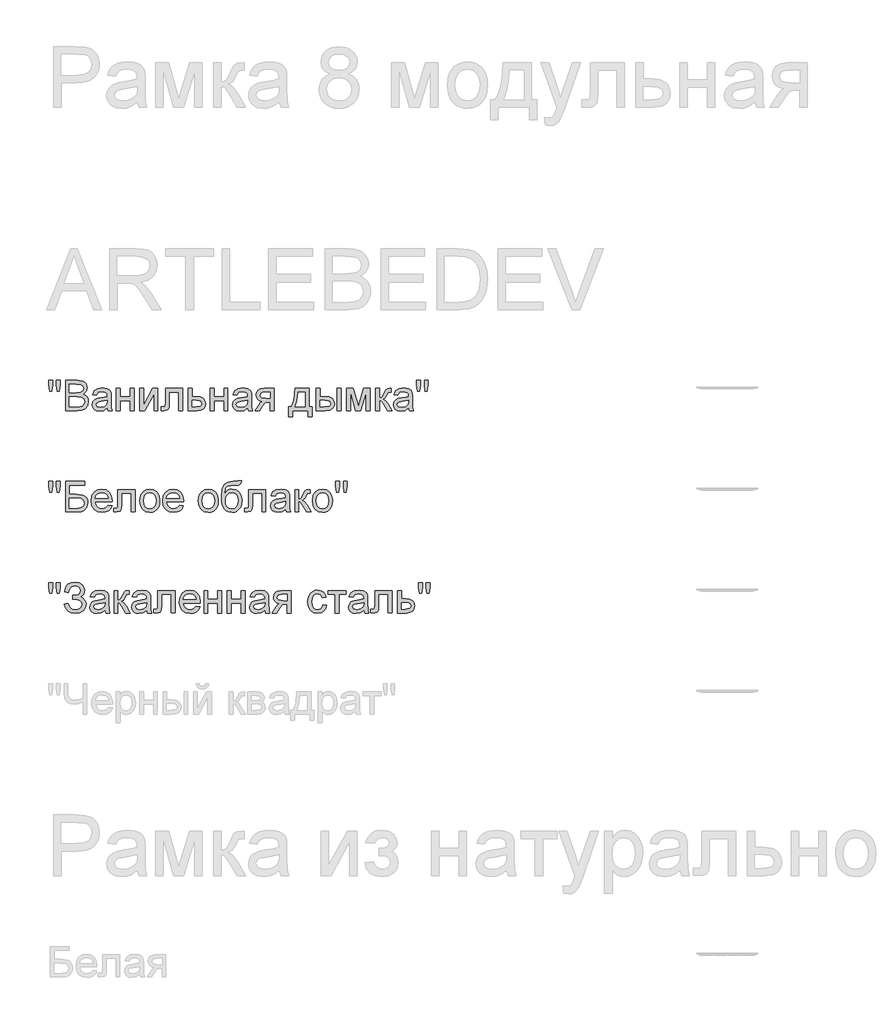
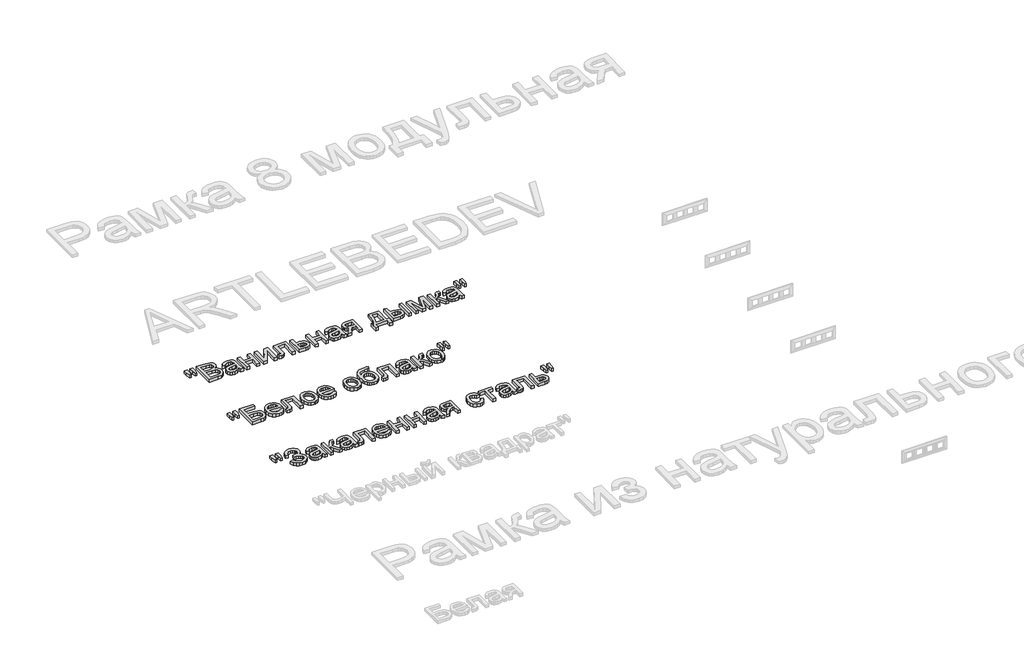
# One storey, part 130 of 168: 3 proxies.
"""IFC4 building model written with IfcOpenShell, lengths in millimetres."""

from ifc_helpers import new_model, si_unit, origin, origin_with_axes, place, context, project, spatial, polyline, outline, extrude, element, save

model = new_model("IFC4")

# Units and contexts
model_context = context("Model", 3, world=origin())
ifc_project = project(units=[si_unit("LENGTHUNIT", "METRE", prefix="MILLI")], contexts=[model_context])

# Site, building, storey
site = spatial("IfcSite", under=ifc_project)
building = spatial("IfcBuilding", under=site)
storey = spatial("IfcBuildingStorey", under=building, Name="Этаж 01", Elevation=0.0)

# Proxies
placement = place(None, origin())
element("IfcBuildingElementProxy", 1, Name="150", ObjectType="150", at=placement, inside=storey, context=model_context, shape_type="SweptSolid", body=[
    extrude(outline(polyline([(55080.1485789, -6451.873446), (55075.550054, -6422.7739802), (55075.550054, -6397.7212163), (55094.3856121, -6397.7212163), (55094.3856121, -6422.7739802), (55090.2653338, -6451.873446), (55080.1485789, -6451.873446)])), origin_with_axes(), (0.0, 0.0, 1.0), 20.0),
    extrude(outline(polyline([(55117.7093306, -6451.873446), (55113.2211703, -6422.7739802), (55113.2211703, -6397.7212163), (55132.0567284, -6397.7212163), (55132.0567284, -6422.7739802), (55127.6421445, -6451.873446), (55117.7093306, -6451.873446)])), origin_with_axes(), (0.0, 0.0, 1.0), 20.0),
    extrude(outline(polyline([(55157.9556209, -6548.4056816), (55157.9556209, -6397.7212163), (55215.4555767, -6397.7212163), (55243.6169435, -6402.1541944), (55253.0807078, -6407.7781904), (55260.2452096, -6415.7842223), (55266.2600803, -6435.0612389), (55261.2017028, -6452.6643923), (55245.9162059, -6466.0001146), (55256.5893823, -6471.5735269), (55264.4758526, -6480.0532069), (55269.3456905, -6490.8781346), (55270.9689698, -6503.48729), (55266.5359918, -6523.7391938), (55255.5547142, -6538.160168), (55239.1655713, -6545.8121135), (55215.0141183, -6548.4056816), (55157.9556209, -6548.4056816)]), holes=[polyline([(55176.791179, -6458.9367803), (55211.1881456, -6458.9367803), (55231.2745025, -6457.3180996), (55243.3594261, -6450.3467358), (55247.4245221, -6438.0778712), (55243.6353376, -6425.7906126), (55232.7828187, -6418.5249432), (55208.5761834, -6416.5567745), (55176.791179, -6416.5567745), (55176.791179, -6458.9367803)]), polyline([(55176.791179, -6529.5701234), (55215.4187885, -6529.5701234), (55229.3983043, -6528.8343594), (55241.2257105, -6524.7324752), (55249.061597, -6516.3631598), (55252.1334117, -6503.671231), (55248.5281681, -6489.0295275), (55236.8479148, -6480.2923302), (55213.5793786, -6477.7723385), (55176.791179, -6477.7723385), (55176.791179, -6529.5701234)])]), origin_with_axes(), (0.0, 0.0, 1.0), 20.0),
    extrude(outline(polyline([(55365.1467606, -6534.279013), (55346.8814195, -6547.0445182), (55326.7030921, -6550.7601263), (55310.9623412, -6548.5252432), (55299.3510657, -6541.8205939), (55292.1911624, -6531.6394596), (55289.804528, -6518.975122), (55293.4097715, -6504.0759012), (55302.8827329, -6493.2601705), (55316.0713024, -6487.079753), (55332.3684748, -6484.2470616), (55365.036396, -6477.7723385), (55365.1467606, -6473.5784838), (55363.8499765, -6465.1723802), (55359.9596244, -6459.6725443), (55351.2592153, -6455.5890542), (55339.1375035, -6454.2278908), (55320.0812162, -6457.8515285), (55310.9945309, -6470.7090042), (55292.1589727, -6468.3545594), (55300.3075589, -6449.9604597), (55316.7150959, -6439.1815172), (55341.5655247, -6435.3923327), (55364.3926025, -6438.7400588), (55377.2868664, -6447.1461624), (55383.0626137, -6459.9300617), (55383.9823187, -6476.4111751), (55383.9823187, -6499.8452582), (55384.9388119, -6532.5683617), (55388.6912083, -6548.4056816), (55369.8556501, -6548.4056816), (55365.1467606, -6534.279013)]), holes=[polyline([(55365.1467606, -6496.6078966), (55334.7597078, -6502.383644), (55318.5545059, -6505.4370645), (55311.2152601, -6510.4034715), (55308.6400861, -6517.6507468), (55314.2502865, -6527.841078), (55330.7130058, -6531.9245682), (55349.7692932, -6527.4180137), (55362.0565518, -6516.5103126), (55365.036396, -6501.9421856), (55365.1467606, -6496.6078966)])]), origin_with_axes(), (0.0, 0.0, 1.0), 20.0),
    extrude(outline(polyline([(55409.8812112, -6437.7467774), (55428.7167693, -6437.7467774), (55428.7167693, -6480.1267833), (55478.1601095, -6480.1267833), (55478.1601095, -6437.7467774), (55496.9956676, -6437.7467774), (55496.9956676, -6548.4056816), (55478.1601095, -6548.4056816), (55478.1601095, -6498.9623414), (55428.7167693, -6498.9623414), (55428.7167693, -6548.4056816), (55409.8812112, -6548.4056816), (55409.8812112, -6437.7467774)])), origin_with_axes(), (0.0, 0.0, 1.0), 20.0),
    extrude(outline(polyline([(55525.2490049, -6437.7467774), (55544.084563, -6437.7467774), (55544.084563, -6522.1389071), (55590.364118, -6437.7467774), (55614.7179061, -6437.7467774), (55614.7179061, -6548.4056816), (55595.8823479, -6548.4056816), (55595.8823479, -6464.5285867), (55549.8970985, -6548.4056816), (55525.2490049, -6548.4056816), (55525.2490049, -6437.7467774)])), origin_with_axes(), (0.0, 0.0, 1.0), 20.0),
    extrude(outline(polyline([(55652.3890224, -6437.7467774), (55737.1490341, -6437.7467774), (55737.1490341, -6548.295317), (55718.3134759, -6548.295317), (55718.3134759, -6456.5823356), (55671.2245806, -6456.5823356), (55671.2245806, -6509.3734019), (55669.9553877, -6533.72719), (55662.9840239, -6544.0094917), (55646.5029105, -6548.4056816), (55631.1990195, -6547.4491884), (55631.1990195, -6529.5701234), (55639.6235172, -6529.5701234), (55648.1399854, -6528.4112951), (55651.5428938, -6524.7324752), (55652.3890224, -6508.3065441), (55652.3890224, -6437.7467774)])), origin_with_axes(), (0.0, 0.0, 1.0), 20.0),
    extrude(outline(polyline([(55765.4023713, -6437.7467774), (55784.2379295, -6437.7467774), (55784.2379295, -6477.7723385), (55805.9429672, -6477.7723385), (55824.7601312, -6480.1313818), (55838.6844648, -6487.2085117), (55847.2929034, -6498.433511), (55850.162383, -6513.2361628), (55847.7205663, -6526.7144394), (55840.395116, -6538.0865916), (55827.6985887, -6545.8259091), (55809.1435405, -6548.4056816), (55765.4023713, -6548.4056816), (55765.4023713, -6437.7467774)]), holes=[polyline([(55784.2379295, -6529.5701234), (55801.8226888, -6529.5701234), (55824.539402, -6525.615392), (55829.6299692, -6520.552416), (55831.3268249, -6513.272951), (55826.3052356, -6501.6846682), (55818.2348244, -6497.8770895), (55804.066769, -6496.6078966), (55784.2379295, -6496.6078966), (55784.2379295, -6529.5701234)])]), origin_with_axes(), (0.0, 0.0, 1.0), 20.0),
    extrude(outline(polyline([(55873.7068307, -6437.7467774), (55892.5423889, -6437.7467774), (55892.5423889, -6480.1267833), (55941.985729, -6480.1267833), (55941.985729, -6437.7467774), (55960.8212872, -6437.7467774), (55960.8212872, -6548.4056816), (55941.985729, -6548.4056816), (55941.985729, -6498.9623414), (55892.5423889, -6498.9623414), (55892.5423889, -6548.4056816), (55873.7068307, -6548.4056816), (55873.7068307, -6437.7467774)])), origin_with_axes(), (0.0, 0.0, 1.0), 20.0),
    extrude(outline(polyline([(56059.7079675, -6534.279013), (56041.4426264, -6547.0445182), (56021.264299, -6550.7601263), (56005.5235481, -6548.5252432), (55993.9122726, -6541.8205939), (55986.7523693, -6531.6394596), (55984.3657349, -6518.975122), (55987.9709784, -6504.0759012), (55997.4439398, -6493.2601705), (56010.6325093, -6487.079753), (56026.9296817, -6484.2470616), (56059.5976029, -6477.7723385), (56059.7079675, -6473.5784838), (56058.4111834, -6465.1723802), (56054.5208313, -6459.6725443), (56045.8204221, -6455.5890542), (56033.6987104, -6454.2278908), (56014.6424231, -6457.8515285), (56005.5557378, -6470.7090042), (55986.7201796, -6468.3545594), (55994.8687658, -6449.9604597), (56011.2763028, -6439.1815172), (56036.1267316, -6435.3923327), (56058.9538094, -6438.7400588), (56071.8480733, -6447.1461624), (56077.6238206, -6459.9300617), (56078.5435256, -6476.4111751), (56078.5435256, -6499.8452582), (56079.5000188, -6532.5683617), (56083.2524152, -6548.4056816), (56064.416857, -6548.4056816), (56059.7079675, -6534.279013)]), holes=[polyline([(56059.7079675, -6496.6078966), (56029.3209147, -6502.383644), (56013.1157128, -6505.4370645), (56005.776467, -6510.4034715), (56003.201293, -6517.6507468), (56008.8114934, -6527.841078), (56025.2742127, -6531.9245682), (56044.3305001, -6527.4180137), (56056.6177587, -6516.5103126), (56059.5976029, -6501.9421856), (56059.7079675, -6496.6078966)])]), origin_with_axes(), (0.0, 0.0, 1.0), 20.0),
    extrude(outline(polyline([(56189.2024298, -6437.7467774), (56189.2024298, -6548.4056816), (56170.3668716, -6548.4056816), (56170.3668716, -6506.0256757), (56160.1029639, -6506.0256757), (56146.1234481, -6508.4169087), (56132.9900609, -6524.4933519), (56117.9804755, -6548.4056816), (56096.2018614, -6548.4056816), (56115.1109959, -6518.1657816), (56123.4619172, -6507.3132627), (56131.1506509, -6502.4940086), (56118.2747811, -6498.5484742), (56109.224884, -6491.0528785), (56103.872201, -6481.0832765), (56102.0879733, -6469.7157228), (56104.5251915, -6456.8214589), (56111.8368462, -6446.6127335), (56123.7654199, -6439.9632664), (56140.0533952, -6437.7467774), (56189.2024298, -6437.7467774)]), holes=[polyline([(56170.3668716, -6456.5823356), (56145.5348369, -6456.5823356), (56132.7095509, -6457.672186), (56125.4300859, -6460.9417372), (56120.9235315, -6471.1504626), (56122.583599, -6478.32876), (56127.5638015, -6483.3089625), (56151.0898551, -6487.1901176), (56170.3668716, -6487.1901176), (56170.3668716, -6456.5823356)])]), origin_with_axes(), (0.0, 0.0, 1.0), 20.0),
    extrude(outline(polyline([(56292.7979996, -6437.7467774), (56363.4313427, -6437.7467774), (56363.4313427, -6529.5701234), (56377.5580113, -6529.5701234), (56377.5580113, -6579.0134636), (56358.7224531, -6579.0134636), (56358.7224531, -6548.4056816), (56281.0257758, -6548.4056816), (56281.0257758, -6579.0134636), (56262.1902176, -6579.0134636), (56262.1902176, -6529.5701234), (56273.9624415, -6529.5701234), (56282.5202964, -6514.105284), (56288.5121744, -6493.6464466), (56292.7979996, -6437.7467774)]), holes=[polyline([(56309.279113, -6456.5823356), (56304.864529, -6499.4957703), (56295.1524444, -6529.5701234), (56344.5957845, -6529.5701234), (56344.5957845, -6456.5823356), (56309.279113, -6456.5823356)])]), origin_with_axes(), (0.0, 0.0, 1.0), 20.0),
    extrude(outline(polyline([(56502.3435841, -6437.7467774), (56521.1791422, -6437.7467774), (56521.1791422, -6548.4056816), (56502.3435841, -6548.4056816), (56502.3435841, -6437.7467774)])), origin_with_axes(), (0.0, 0.0, 1.0), 20.0),
    extrude(outline(polyline([(56398.7480142, -6437.7467774), (56417.5835724, -6437.7467774), (56417.5835724, -6477.7723385), (56440.8705027, -6477.7723385), (56460.9982463, -6480.1313818), (56475.9112627, -6487.2085117), (56485.1405023, -6498.433511), (56488.2169154, -6513.2361628), (56485.637143, -6526.7144394), (56477.8978255, -6538.0865916), (56464.4931253, -6545.8259091), (56444.9172046, -6548.4056816), (56398.7480142, -6548.4056816), (56398.7480142, -6437.7467774)]), holes=[polyline([(56417.5835724, -6529.5701234), (56436.9341653, -6529.5701234), (56461.9133528, -6525.615392), (56467.5143562, -6520.552416), (56469.3813573, -6513.272951), (56463.8447333, -6501.6846682), (56454.9649816, -6497.8770895), (56439.3989747, -6496.6078966), (56417.5835724, -6496.6078966), (56417.5835724, -6529.5701234)])]), origin_with_axes(), (0.0, 0.0, 1.0), 20.0),
    extrude(outline(polyline([(56549.4324794, -6437.7467774), (56581.8428832, -6437.7467774), (56606.8220707, -6526.3327619), (56633.7510327, -6437.7467774), (56664.8002731, -6437.7467774), (56664.8002731, -6548.4056816), (56645.964715, -6548.4056816), (56645.964715, -6459.3046623), (56618.8886001, -6548.4056816), (56594.1669301, -6548.4056816), (56568.2680376, -6455.0372312), (56568.2680376, -6548.4056816), (56549.4324794, -6548.4056816), (56549.4324794, -6437.7467774)])), origin_with_axes(), (0.0, 0.0, 1.0), 20.0),
    extrude(outline(polyline([(56693.0536104, -6437.7467774), (56711.8891685, -6437.7467774), (56711.8891685, -6484.8356728), (56724.5075209, -6481.4511584), (56734.845005, -6461.7326835), (56743.4350496, -6444.7181412), (56751.0134187, -6439.1815172), (56764.7905994, -6437.7467774), (56768.395843, -6437.7467774), (56768.395843, -6456.6927002), (56763.3190714, -6456.5823356), (56754.1220216, -6458.5688983), (56747.6472984, -6470.9665216), (56740.0505352, -6484.3758203), (56729.4003515, -6490.9425139), (56741.2829399, -6498.2725627), (56752.9447992, -6513.7144094), (56773.1047325, -6548.4056816), (56751.6940004, -6548.4056816), (56731.9387373, -6514.4501734), (56722.0059234, -6500.0843815), (56711.8891685, -6496.6078966), (56711.8891685, -6548.4056816), (56693.0536104, -6548.4056816), (56693.0536104, -6437.7467774)])), origin_with_axes(), (0.0, 0.0, 1.0), 20.0),
    extrude(outline(polyline([(56855.5102994, -6534.279013), (56837.2449584, -6547.0445182), (56817.0666309, -6550.7601263), (56801.3258801, -6548.5252432), (56789.7146046, -6541.8205939), (56782.5547013, -6531.6394596), (56780.1680668, -6518.975122), (56783.7733104, -6504.0759012), (56793.2462717, -6493.2601705), (56806.4348413, -6487.079753), (56822.7320137, -6484.2470616), (56855.3999348, -6477.7723385), (56855.5102994, -6473.5784838), (56854.2135154, -6465.1723802), (56850.3231633, -6459.6725443), (56841.6227541, -6455.5890542), (56829.5010424, -6454.2278908), (56810.444755, -6457.8515285), (56801.3580697, -6470.7090042), (56782.5225116, -6468.3545594), (56790.6710978, -6449.9604597), (56807.0786348, -6439.1815172), (56831.9290635, -6435.3923327), (56854.7561413, -6438.7400588), (56867.6504053, -6447.1461624), (56873.4261526, -6459.9300617), (56874.3458576, -6476.4111751), (56874.3458576, -6499.8452582), (56875.3023508, -6532.5683617), (56879.0547471, -6548.4056816), (56860.219189, -6548.4056816), (56855.5102994, -6534.279013)]), holes=[polyline([(56855.5102994, -6496.6078966), (56825.1232466, -6502.383644), (56808.9180447, -6505.4370645), (56801.5787989, -6510.4034715), (56799.003625, -6517.6507468), (56804.6138254, -6527.841078), (56821.0765447, -6531.9245682), (56840.132832, -6527.4180137), (56852.4200907, -6516.5103126), (56855.3999348, -6501.9421856), (56855.5102994, -6496.6078966)])]), origin_with_axes(), (0.0, 0.0, 1.0), 20.0),
    extrude(outline(polyline([(56900.1343854, -6451.873446), (56895.5358605, -6422.7739802), (56895.5358605, -6397.7212163), (56914.3714187, -6397.7212163), (56914.3714187, -6422.7739802), (56910.2511403, -6451.873446), (56900.1343854, -6451.873446)])), origin_with_axes(), (0.0, 0.0, 1.0), 20.0),
    extrude(outline(polyline([(56937.6951372, -6451.873446), (56933.2069768, -6422.7739802), (56933.2069768, -6397.7212163), (56952.042535, -6397.7212163), (56952.042535, -6422.7739802), (56947.627951, -6451.873446), (56937.6951372, -6451.873446)])), origin_with_axes(), (0.0, 0.0, 1.0), 20.0),
])
element("IfcBuildingElementProxy", 2, Name="150", ObjectType="150", at=placement, inside=storey, context=model_context, shape_type="SweptSolid", body=[
    extrude(outline(polyline([(55080.1485789, -6951.873446), (55075.550054, -6922.7739802), (55075.550054, -6897.7212163), (55094.3856121, -6897.7212163), (55094.3856121, -6922.7739802), (55090.2653338, -6951.873446), (55080.1485789, -6951.873446)])), origin_with_axes(), (0.0, 0.0, 1.0), 20.0),
    extrude(outline(polyline([(55117.7093306, -6951.873446), (55113.2211703, -6922.7739802), (55113.2211703, -6897.7212163), (55132.0567284, -6897.7212163), (55132.0567284, -6922.7739802), (55127.6421445, -6951.873446), (55117.7093306, -6951.873446)])), origin_with_axes(), (0.0, 0.0, 1.0), 20.0),
    extrude(outline(polyline([(55157.9556209, -6897.7212163), (55252.1334117, -6897.7212163), (55252.1334117, -6916.5567745), (55176.791179, -6916.5567745), (55176.791179, -6961.2912251), (55212.0710624, -6961.2912251), (55243.157091, -6965.1171979), (55253.5589544, -6970.6446248), (55261.6615553, -6979.5749603), (55266.8762826, -6991.0712726), (55268.614525, -7004.2966303), (55263.6665122, -7025.7625448), (55248.8960501, -7042.0781113), (55235.6247071, -7046.823789), (55215.4555767, -7048.4056816), (55157.9556209, -7048.4056816), (55157.9556209, -6897.7212163)]), holes=[polyline([(55176.791179, -7029.5701234), (55217.1478339, -7029.5701234), (55231.4124583, -7028.015822), (55241.6119866, -7023.3529177), (55247.7372218, -7015.5814105), (55249.7789669, -7004.7013005), (55245.1068655, -6989.9492325), (55232.102237, -6982.0765578), (55203.7201411, -6980.1267833), (55176.791179, -6980.1267833), (55176.791179, -7029.5701234)])]), origin_with_axes(), (0.0, 0.0, 1.0), 20.0),
    extrude(outline(polyline([(55369.6349209, -7015.4434548), (55388.1025971, -7017.7978996), (55381.4485315, -7031.713036), (55370.8305374, -7042.1148995), (55356.4877381, -7048.5988196), (55338.6592569, -7050.7601263), (55316.5587461, -7047.0307226), (55299.5534008, -7035.8425114), (55288.710079, -7017.9220597), (55285.0956384, -6993.9959345), (55288.7468672, -6969.2650674), (55299.7005536, -6950.7698), (55316.4759726, -6939.2366995), (55337.5923991, -6935.3923327), (55358.0512366, -6939.2275025), (55374.3989927, -6950.7330118), (55385.1181544, -6969.191491), (55388.6912083, -6993.8855699), (55388.5808437, -6998.9623414), (55303.9311966, -6998.9623414), (55307.1915508, -7013.0614189), (55314.7653213, -7023.4264941), (55325.6960151, -7029.8000497), (55339.0271389, -7031.9245682), (55357.4948151, -7027.9882308), (55369.6349209, -7015.4434548)]), holes=[polyline([(55303.9311966, -6980.1267833), (55369.8556501, -6980.1267833), (55367.3080673, -6970.1755753), (55362.3140692, -6963.0570587), (55351.3327917, -6956.4351828), (55337.5188227, -6954.2278908), (55324.8222954, -6955.9891259), (55314.3238629, -6961.272831), (55307.0260039, -6969.5087892), (55303.9311966, -6980.1267833)])]), origin_with_axes(), (0.0, 0.0, 1.0), 20.0),
    extrude(outline(polyline([(55416.9445455, -6937.7467774), (55501.7045572, -6937.7467774), (55501.7045572, -7048.295317), (55482.868999, -7048.295317), (55482.868999, -6956.5823356), (55435.7801036, -6956.5823356), (55435.7801036, -7009.3734019), (55434.5109108, -7033.72719), (55427.539547, -7044.0094917), (55411.0584336, -7048.4056816), (55395.7545426, -7047.4491884), (55395.7545426, -7029.5701234), (55404.1790403, -7029.5701234), (55412.6955084, -7028.4112951), (55416.0984169, -7024.7324752), (55416.9445455, -7008.3065441), (55416.9445455, -6937.7467774)])), origin_with_axes(), (0.0, 0.0, 1.0), 20.0),
    extrude(outline(polyline([(55525.2490049, -6993.0762295), (55529.323298, -6966.3955878), (55541.5461773, -6947.6428031), (55556.6477332, -6938.4549503), (55574.7291332, -6935.3923327), (55594.516586, -6939.1217364), (55610.3217163, -6950.3099476), (55620.6821929, -6968.0740494), (55624.1356852, -6991.5311251), (55622.6089749, -7010.5598213), (55618.0288441, -7025.0451749), (55610.5286499, -7035.8930952), (55600.2417496, -7044.0094917), (55588.0234688, -7049.0724677), (55574.7291332, -7050.7601263), (55554.7025571, -7047.0445182), (55538.915821, -7035.8976937), (55528.6657089, -7017.7611114), (55525.2490049, -6993.0762295)]), holes=[polyline([(55544.084563, -6993.0394413), (55546.2642638, -7010.0861732), (55552.8033663, -7022.2308776), (55562.6442097, -7029.5011455), (55574.7291332, -7031.9245682), (55586.7588745, -7029.48735), (55596.5813237, -7022.1756953), (55603.1204262, -7009.8700426), (55605.300127, -6992.4508301), (55603.1066306, -6975.9007388), (55596.5261414, -6963.9215814), (55586.6898966, -6956.6513134), (55574.7291332, -6954.2278908), (55562.6442097, -6956.6421164), (55552.8033663, -6963.8847932), (55546.2642638, -6976.0019064), (55544.084563, -6993.0394413)])]), origin_with_axes(), (0.0, 0.0, 1.0), 20.0),
    extrude(outline(polyline([(55722.8016363, -7015.4434548), (55741.2693124, -7017.7978996), (55734.6152469, -7031.713036), (55723.9972528, -7042.1148995), (55709.6544535, -7048.5988196), (55691.8259723, -7050.7601263), (55669.7254614, -7047.0307226), (55652.7201162, -7035.8425114), (55641.8767944, -7017.9220597), (55638.2623538, -6993.9959345), (55641.9135826, -6969.2650674), (55652.867269, -6950.7698), (55669.642688, -6939.2366995), (55690.7591145, -6935.3923327), (55711.217952, -6939.2275025), (55727.5657081, -6950.7330118), (55738.2848698, -6969.191491), (55741.8579236, -6993.8855699), (55741.747559, -6998.9623414), (55657.0979119, -6998.9623414), (55660.3582661, -7013.0614189), (55667.9320367, -7023.4264941), (55678.8627305, -7029.8000497), (55692.1938543, -7031.9245682), (55710.6615304, -7027.9882308), (55722.8016363, -7015.4434548)]), holes=[polyline([(55657.0979119, -6980.1267833), (55723.0223655, -6980.1267833), (55720.4747827, -6970.1755753), (55715.4807846, -6963.0570587), (55704.499507, -6956.4351828), (55690.6855381, -6954.2278908), (55677.9890107, -6955.9891259), (55667.4905783, -6961.272831), (55660.1927192, -6969.5087892), (55657.0979119, -6980.1267833)])]), origin_with_axes(), (0.0, 0.0, 1.0), 20.0),
    extrude(outline(polyline([(55814.8457115, -6993.0762295), (55818.9200046, -6966.3955878), (55831.1428839, -6947.6428031), (55846.2444398, -6938.4549503), (55864.3258398, -6935.3923327), (55884.1132926, -6939.1217364), (55899.9184229, -6950.3099476), (55910.2788995, -6968.0740494), (55913.7323918, -6991.5311251), (55912.2056815, -7010.5598213), (55907.6255507, -7025.0451749), (55900.1253565, -7035.8930952), (55889.8384562, -7044.0094917), (55877.6201754, -7049.0724677), (55864.3258398, -7050.7601263), (55844.2992637, -7047.0445182), (55828.5125276, -7035.8976937), (55818.2624155, -7017.7611114), (55814.8457115, -6993.0762295)]), holes=[polyline([(55833.6812696, -6993.0394413), (55835.8609704, -7010.0861732), (55842.4000729, -7022.2308776), (55852.2409163, -7029.5011455), (55864.3258398, -7031.9245682), (55876.3555811, -7029.48735), (55886.1780303, -7022.1756953), (55892.7171328, -7009.8700426), (55894.8968336, -6992.4508301), (55892.7033372, -6975.9007388), (55886.122848, -6963.9215814), (55876.2866032, -6956.6513134), (55864.3258398, -6954.2278908), (55852.2409163, -6956.6421164), (55842.4000729, -6963.8847932), (55835.8609704, -6976.0019064), (55833.6812696, -6993.0394413)])]), origin_with_axes(), (0.0, 0.0, 1.0), 20.0),
    extrude(outline(polyline([(56012.6190721, -6895.3667716), (56029.1001855, -6895.3667716), (56024.2441431, -6910.0636573), (56014.6424231, -6915.3795521), (55991.576222, -6916.5567745), (55960.5085875, -6920.897782), (55953.3808738, -6926.5447707), (55948.5892108, -6934.8037215), (55944.560903, -6959.4150269), (55960.8764695, -6941.3888092), (55970.7954878, -6936.8914518), (55981.9009255, -6935.3923327), (56001.4998388, -6939.2045098), (56017.401538, -6950.6410414), (56027.9413572, -6968.5798871), (56031.4546302, -6991.8990071), (56029.7117893, -7009.8792396), (56024.4832664, -7024.3094109), (56007.9469707, -7043.8623389), (55996.6529935, -7049.0356795), (55981.9009255, -7050.7601263), (55964.9001788, -7048.5390388), (55952.1576662, -7041.8757762), (55942.7812738, -7031.7498242), (55935.8788879, -7019.1406689), (55931.6298508, -7000.1533594), (55930.2135052, -6970.8929452), (55933.786559, -6934.7531377), (55944.5057207, -6912.7124076), (55962.6377045, -6901.4690142), (55988.449225, -6897.7212163), (56009.4184987, -6897.2981521), (56012.6190721, -6895.3667716)]), holes=[polyline([(56012.6190721, -6991.3103959), (56010.577327, -6976.48935), (56004.4520918, -6964.6205572), (55994.6112484, -6956.8260574), (55981.4226789, -6954.2278908), (55967.6730893, -6956.9732102), (55957.473561, -6965.2091684), (55951.1551877, -6978.0344544), (55949.0490633, -6994.5477575), (55951.3759169, -7010.5552228), (55958.3564778, -7022.304454), (55968.7491442, -7029.5195396), (55981.3123143, -7031.9245682), (55993.9398638, -7029.1424606), (56003.937057, -7020.7961378), (56010.4485683, -7007.8604872), (56012.6190721, -6991.3103959)])]), origin_with_axes(), (0.0, 0.0, 1.0), 20.0),
    extrude(outline(polyline([(56064.416857, -6937.7467774), (56149.1768687, -6937.7467774), (56149.1768687, -7048.295317), (56130.3413105, -7048.295317), (56130.3413105, -6956.5823356), (56083.2524152, -6956.5823356), (56083.2524152, -7009.3734019), (56081.9832223, -7033.72719), (56075.0118585, -7044.0094917), (56058.5307451, -7048.4056816), (56043.2268541, -7047.4491884), (56043.2268541, -7029.5701234), (56051.6513518, -7029.5701234), (56060.16782, -7028.4112951), (56063.5707284, -7024.7324752), (56064.416857, -7008.3065441), (56064.416857, -6937.7467774)])), origin_with_axes(), (0.0, 0.0, 1.0), 20.0),
    extrude(outline(polyline([(56248.063549, -7034.279013), (56229.7982079, -7047.0445182), (56209.6198805, -7050.7601263), (56193.8791296, -7048.5252432), (56182.2678542, -7041.8205939), (56175.1079508, -7031.6394596), (56172.7213164, -7018.975122), (56176.3265599, -7004.0759012), (56185.7995213, -6993.2601705), (56198.9880908, -6987.079753), (56215.2852632, -6984.2470616), (56247.9531844, -6977.7723385), (56248.063549, -6973.5784838), (56246.766765, -6965.1723802), (56242.8764129, -6959.6725443), (56234.1760037, -6955.5890542), (56222.0542919, -6954.2278908), (56202.9980046, -6957.8515285), (56193.9113193, -6970.7090042), (56175.0757612, -6968.3545594), (56183.2243473, -6949.9604597), (56199.6318843, -6939.1815172), (56224.4823131, -6935.3923327), (56247.3093909, -6938.7400588), (56260.2036548, -6947.1461624), (56265.9794022, -6959.9300617), (56266.8991071, -6976.4111751), (56266.8991071, -6999.8452582), (56267.8556003, -7032.5683617), (56271.6079967, -7048.4056816), (56252.7724385, -7048.4056816), (56248.063549, -7034.279013)]), holes=[polyline([(56248.063549, -6996.6078966), (56217.6764962, -7002.383644), (56201.4712943, -7005.4370645), (56194.1320485, -7010.4034715), (56191.5568745, -7017.6507468), (56197.167075, -7027.841078), (56213.6297942, -7031.9245682), (56232.6860816, -7027.4180137), (56244.9733402, -7016.5103126), (56247.9531844, -7001.9421856), (56248.063549, -6996.6078966)])]), origin_with_axes(), (0.0, 0.0, 1.0), 20.0),
    extrude(outline(polyline([(56292.7979996, -6937.7467774), (56311.6335578, -6937.7467774), (56311.6335578, -6984.8356728), (56324.2519102, -6981.4511584), (56334.5893943, -6961.7326835), (56343.1794388, -6944.7181412), (56350.7578079, -6939.1815172), (56364.5349887, -6937.7467774), (56368.1402322, -6937.7467774), (56368.1402322, -6956.6927002), (56363.0634607, -6956.5823356), (56353.8664108, -6958.5688983), (56347.3916877, -6970.9665216), (56339.7949245, -6984.3758203), (56329.1447407, -6990.9425139), (56341.0273292, -6998.2725627), (56352.6891884, -7013.7144094), (56372.8491218, -7048.4056816), (56351.4383896, -7048.4056816), (56331.6831265, -7014.4501734), (56321.7503126, -7000.0843815), (56311.6335578, -6996.6078966), (56311.6335578, -7048.4056816), (56292.7979996, -7048.4056816), (56292.7979996, -6937.7467774)])), origin_with_axes(), (0.0, 0.0, 1.0), 20.0),
    extrude(outline(polyline([(56379.9124561, -6993.0762295), (56383.9867492, -6966.3955878), (56396.2096285, -6947.6428031), (56411.3111844, -6938.4549503), (56429.3925844, -6935.3923327), (56449.1800372, -6939.1217364), (56464.9851674, -6950.3099476), (56475.3456441, -6968.0740494), (56478.7991364, -6991.5311251), (56477.2724261, -7010.5598213), (56472.6922952, -7025.0451749), (56465.1921011, -7035.8930952), (56454.9052008, -7044.0094917), (56442.68692, -7049.0724677), (56429.3925844, -7050.7601263), (56409.3660083, -7047.0445182), (56393.5792722, -7035.8976937), (56383.3291601, -7017.7611114), (56379.9124561, -6993.0762295)]), holes=[polyline([(56398.7480142, -6993.0394413), (56400.927715, -7010.0861732), (56407.4668175, -7022.2308776), (56417.3076609, -7029.5011455), (56429.3925844, -7031.9245682), (56441.4223257, -7029.48735), (56451.2447749, -7022.1756953), (56457.7838774, -7009.8700426), (56459.9635782, -6992.4508301), (56457.7700818, -6975.9007388), (56451.1895926, -6963.9215814), (56441.3533478, -6956.6513134), (56429.3925844, -6954.2278908), (56417.3076609, -6956.6421164), (56407.4668175, -6963.8847932), (56400.927715, -6976.0019064), (56398.7480142, -6993.0394413)])]), origin_with_axes(), (0.0, 0.0, 1.0), 20.0),
    extrude(outline(polyline([(56499.8787747, -6951.873446), (56495.2802498, -6922.7739802), (56495.2802498, -6897.7212163), (56514.1158079, -6897.7212163), (56514.1158079, -6922.7739802), (56509.9955296, -6951.873446), (56499.8787747, -6951.873446)])), origin_with_axes(), (0.0, 0.0, 1.0), 20.0),
    extrude(outline(polyline([(56537.4395264, -6951.873446), (56532.9513661, -6922.7739802), (56532.9513661, -6897.7212163), (56551.7869242, -6897.7212163), (56551.7869242, -6922.7739802), (56547.3723403, -6951.873446), (56537.4395264, -6951.873446)])), origin_with_axes(), (0.0, 0.0, 1.0), 20.0),
])
element("IfcBuildingElementProxy", 3, Name="150", ObjectType="150", at=placement, inside=storey, context=model_context, shape_type="SweptSolid", body=[
    extrude(outline(polyline([(55080.1485789, -7451.873446), (55075.550054, -7422.7739802), (55075.550054, -7397.7212163), (55094.3856121, -7397.7212163), (55094.3856121, -7422.7739802), (55090.2653338, -7451.873446), (55080.1485789, -7451.873446)])), origin_with_axes(), (0.0, 0.0, 1.0), 20.0),
    extrude(outline(polyline([(55117.7093306, -7451.873446), (55113.2211703, -7422.7739802), (55113.2211703, -7397.7212163), (55132.0567284, -7397.7212163), (55132.0567284, -7422.7739802), (55127.6421445, -7451.873446), (55117.7093306, -7451.873446)])), origin_with_axes(), (0.0, 0.0, 1.0), 20.0),
    extrude(outline(polyline([(55150.8922866, -7506.0256757), (55169.7278447, -7501.3167862), (55181.2977335, -7521.7158428), (55192.2284273, -7529.3723868), (55206.2217387, -7531.9245682), (55220.398991, -7530.0069833), (55231.2193202, -7524.2542286), (55238.0757209, -7515.7883442), (55240.3611878, -7505.7313701), (55237.8641888, -7495.1961495), (55230.3731916, -7487.0613589), (55218.5779752, -7481.8604272), (55203.1683181, -7480.1267833), (55193.2722924, -7480.1267833), (55193.2722924, -7461.2912251), (55214.591054, -7459.7645148), (55227.6324708, -7451.9654165), (55233.2978535, -7437.7099892), (55231.4124583, -7428.8394346), (55225.7562726, -7421.2104817), (55216.8811195, -7415.9543677), (55205.3388219, -7414.2023297), (55186.1169876, -7419.591801), (55175.117316, -7433.8840165), (55172.0822895, -7447.1645565), (55153.2467313, -7442.455667), (55159.0983543, -7421.8542752), (55169.7002536, -7407.1389954), (55185.0524291, -7398.3098275), (55205.1548809, -7395.3667716), (55224.5468605, -7398.4247907), (55239.4598769, -7407.5988479), (55248.965028, -7420.8655924), (55252.1334117, -7436.201673), (55247.2037929, -7454.8440931), (55232.4149367, -7468.7592296), (55242.8903765, -7473.5830823), (55251.5080123, -7481.7270699), (55257.2745625, -7492.4922168), (55259.196746, -7505.1795471), (55255.508729, -7523.0172254), (55244.444678, -7537.6819214), (55227.2921799, -7547.4905751), (55205.3388219, -7550.7601263), (55186.2365493, -7547.9642232), (55170.7947025, -7539.5765137), (55159.0132816, -7525.5969979), (55150.8922866, -7506.0256757)])), origin_with_axes(), (0.0, 0.0, 1.0), 20.0),
    extrude(outline(polyline([(55353.3745367, -7534.279013), (55335.1091957, -7547.0445182), (55314.9308682, -7550.7601263), (55299.1901174, -7548.5252432), (55287.5788419, -7541.8205939), (55280.4189386, -7531.6394596), (55278.0323041, -7518.975122), (55281.6375477, -7504.0759012), (55291.110509, -7493.2601705), (55304.2990786, -7487.079753), (55320.596251, -7484.2470616), (55353.2641721, -7477.7723385), (55353.3745367, -7473.5784838), (55352.0777527, -7465.1723802), (55348.1874006, -7459.6725443), (55339.4869914, -7455.5890542), (55327.3652797, -7454.2278908), (55308.3089923, -7457.8515285), (55299.222307, -7470.7090042), (55280.3867489, -7468.3545594), (55288.5353351, -7449.9604597), (55304.9428721, -7439.1815172), (55329.7933008, -7435.3923327), (55352.6203786, -7438.7400588), (55365.5146426, -7447.1461624), (55371.2903899, -7459.9300617), (55372.2100949, -7476.4111751), (55372.2100949, -7499.8452582), (55373.1665881, -7532.5683617), (55376.9189844, -7548.4056816), (55358.0834263, -7548.4056816), (55353.3745367, -7534.279013)]), holes=[polyline([(55353.3745367, -7496.6078966), (55322.9874839, -7502.383644), (55306.782282, -7505.4370645), (55299.4430362, -7510.4034715), (55296.8678623, -7517.6507468), (55302.4780627, -7527.841078), (55318.940782, -7531.9245682), (55337.9970693, -7527.4180137), (55350.284328, -7516.5103126), (55353.2641721, -7501.9421856), (55353.3745367, -7496.6078966)])]), origin_with_axes(), (0.0, 0.0, 1.0), 20.0),
    extrude(outline(polyline([(55398.1089873, -7437.7467774), (55416.9445455, -7437.7467774), (55416.9445455, -7484.8356728), (55429.5628979, -7481.4511584), (55439.900382, -7461.7326835), (55448.4904266, -7444.7181412), (55456.0687957, -7439.1815172), (55469.8459764, -7437.7467774), (55473.4512199, -7437.7467774), (55473.4512199, -7456.6927002), (55468.3744484, -7456.5823356), (55459.1773985, -7458.5688983), (55452.7026754, -7470.9665216), (55445.1059122, -7484.3758203), (55434.4557285, -7490.9425139), (55446.3383169, -7498.2725627), (55458.0001762, -7513.7144094), (55478.1601095, -7548.4056816), (55456.7493774, -7548.4056816), (55436.9941142, -7514.4501734), (55427.0613004, -7500.0843815), (55416.9445455, -7496.6078966), (55416.9445455, -7548.4056816), (55398.1089873, -7548.4056816), (55398.1089873, -7437.7467774)])), origin_with_axes(), (0.0, 0.0, 1.0), 20.0),
    extrude(outline(polyline([(55560.5656764, -7534.279013), (55542.3003353, -7547.0445182), (55522.1220079, -7550.7601263), (55506.381257, -7548.5252432), (55494.7699816, -7541.8205939), (55487.6100782, -7531.6394596), (55485.2234438, -7518.975122), (55488.8286873, -7504.0759012), (55498.3016487, -7493.2601705), (55511.4902183, -7487.079753), (55527.7873906, -7484.2470616), (55560.4553118, -7477.7723385), (55560.5656764, -7473.5784838), (55559.2688924, -7465.1723802), (55555.3785403, -7459.6725443), (55546.6781311, -7455.5890542), (55534.5564193, -7454.2278908), (55515.500132, -7457.8515285), (55506.4134467, -7470.7090042), (55487.5778886, -7468.3545594), (55495.7264748, -7449.9604597), (55512.1340117, -7439.1815172), (55536.9844405, -7435.3923327), (55559.8115183, -7438.7400588), (55572.7057822, -7447.1461624), (55578.4815296, -7459.9300617), (55579.4012346, -7476.4111751), (55579.4012346, -7499.8452582), (55580.3577277, -7532.5683617), (55584.1101241, -7548.4056816), (55565.2745659, -7548.4056816), (55560.5656764, -7534.279013)]), holes=[polyline([(55560.5656764, -7496.6078966), (55530.1786236, -7502.383644), (55513.9734217, -7505.4370645), (55506.6341759, -7510.4034715), (55504.0590019, -7517.6507468), (55509.6692024, -7527.841078), (55526.1319217, -7531.9245682), (55545.188209, -7527.4180137), (55557.4754676, -7516.5103126), (55560.4553118, -7501.9421856), (55560.5656764, -7496.6078966)])]), origin_with_axes(), (0.0, 0.0, 1.0), 20.0),
    extrude(outline(polyline([(55614.7179061, -7437.7467774), (55699.4779178, -7437.7467774), (55699.4779178, -7548.295317), (55680.6423596, -7548.295317), (55680.6423596, -7456.5823356), (55633.5534643, -7456.5823356), (55633.5534643, -7509.3734019), (55632.2842714, -7533.72719), (55625.3129076, -7544.0094917), (55608.8317942, -7548.4056816), (55593.5279032, -7547.4491884), (55593.5279032, -7529.5701234), (55601.9524009, -7529.5701234), (55610.4688691, -7528.4112951), (55613.8717775, -7524.7324752), (55614.7179061, -7508.3065441), (55614.7179061, -7437.7467774)])), origin_with_axes(), (0.0, 0.0, 1.0), 20.0),
    extrude(outline(polyline([(55805.2072032, -7515.4434548), (55823.6748794, -7517.7978996), (55817.0208138, -7531.713036), (55806.4028197, -7542.1148995), (55792.0600204, -7548.5988196), (55774.2315392, -7550.7601263), (55752.1310283, -7547.0307226), (55735.1256831, -7535.8425114), (55724.2823613, -7517.9220597), (55720.6679207, -7493.9959345), (55724.3191495, -7469.2650674), (55735.2728359, -7450.7698), (55752.0482549, -7439.2366995), (55773.1646814, -7435.3923327), (55793.6235189, -7439.2275025), (55809.971275, -7450.7330118), (55820.6904367, -7469.191491), (55824.2634906, -7493.8855699), (55824.153126, -7498.9623414), (55739.5034789, -7498.9623414), (55742.763833, -7513.0614189), (55750.3376036, -7523.4264941), (55761.2682974, -7529.8000497), (55774.5994212, -7531.9245682), (55793.0670974, -7527.9882308), (55805.2072032, -7515.4434548)]), holes=[polyline([(55739.5034789, -7480.1267833), (55805.4279324, -7480.1267833), (55802.8803496, -7470.1755753), (55797.8863515, -7463.0570587), (55786.9050739, -7456.4351828), (55773.091105, -7454.2278908), (55760.3945777, -7455.9891259), (55749.8961452, -7461.272831), (55742.5982861, -7469.5087892), (55739.5034789, -7480.1267833)])]), origin_with_axes(), (0.0, 0.0, 1.0), 20.0),
    extrude(outline(polyline([(55843.0990487, -7437.7467774), (55861.9346069, -7437.7467774), (55861.9346069, -7480.1267833), (55911.377947, -7480.1267833), (55911.377947, -7437.7467774), (55930.2135052, -7437.7467774), (55930.2135052, -7548.4056816), (55911.377947, -7548.4056816), (55911.377947, -7498.9623414), (55861.9346069, -7498.9623414), (55861.9346069, -7548.4056816), (55843.0990487, -7548.4056816), (55843.0990487, -7437.7467774)])), origin_with_axes(), (0.0, 0.0, 1.0), 20.0),
    extrude(outline(polyline([(55958.4668424, -7437.7467774), (55977.3024005, -7437.7467774), (55977.3024005, -7480.1267833), (56026.7457407, -7480.1267833), (56026.7457407, -7437.7467774), (56045.5812988, -7437.7467774), (56045.5812988, -7548.4056816), (56026.7457407, -7548.4056816), (56026.7457407, -7498.9623414), (55977.3024005, -7498.9623414), (55977.3024005, -7548.4056816), (55958.4668424, -7548.4056816), (55958.4668424, -7437.7467774)])), origin_with_axes(), (0.0, 0.0, 1.0), 20.0),
    extrude(outline(polyline([(56144.4679792, -7534.279013), (56126.2026381, -7547.0445182), (56106.0243107, -7550.7601263), (56090.2835598, -7548.5252432), (56078.6722843, -7541.8205939), (56071.512381, -7531.6394596), (56069.1257465, -7518.975122), (56072.7309901, -7504.0759012), (56082.2039515, -7493.2601705), (56095.392521, -7487.079753), (56111.6896934, -7484.2470616), (56144.3576146, -7477.7723385), (56144.4679792, -7473.5784838), (56143.1711951, -7465.1723802), (56139.280843, -7459.6725443), (56130.5804338, -7455.5890542), (56118.4587221, -7454.2278908), (56099.4024347, -7457.8515285), (56090.3157495, -7470.7090042), (56071.4801913, -7468.3545594), (56079.6287775, -7449.9604597), (56096.0363145, -7439.1815172), (56120.8867433, -7435.3923327), (56143.7138211, -7438.7400588), (56156.608085, -7447.1461624), (56162.3838323, -7459.9300617), (56163.3035373, -7476.4111751), (56163.3035373, -7499.8452582), (56164.2600305, -7532.5683617), (56168.0124268, -7548.4056816), (56149.1768687, -7548.4056816), (56144.4679792, -7534.279013)]), holes=[polyline([(56144.4679792, -7496.6078966), (56114.0809264, -7502.383644), (56097.8757245, -7505.4370645), (56090.5364787, -7510.4034715), (56087.9613047, -7517.6507468), (56093.5715051, -7527.841078), (56110.0342244, -7531.9245682), (56129.0905118, -7527.4180137), (56141.3777704, -7516.5103126), (56144.3576146, -7501.9421856), (56144.4679792, -7496.6078966)])]), origin_with_axes(), (0.0, 0.0, 1.0), 20.0),
    extrude(outline(polyline([(56273.9624415, -7437.7467774), (56273.9624415, -7548.4056816), (56255.1268833, -7548.4056816), (56255.1268833, -7506.0256757), (56244.8629756, -7506.0256757), (56230.8834598, -7508.4169087), (56217.7500726, -7524.4933519), (56202.7404872, -7548.4056816), (56180.9618731, -7548.4056816), (56199.8710076, -7518.1657816), (56208.2219289, -7507.3132627), (56215.9106626, -7502.4940086), (56203.0347928, -7498.5484742), (56193.9848957, -7491.0528785), (56188.6322127, -7481.0832765), (56186.847985, -7469.7157228), (56189.2852032, -7456.8214589), (56196.5968579, -7446.6127335), (56208.5254316, -7439.9632664), (56224.8134069, -7437.7467774), (56273.9624415, -7437.7467774)]), holes=[polyline([(56255.1268833, -7456.5823356), (56230.2948486, -7456.5823356), (56217.4695626, -7457.672186), (56210.1900976, -7460.9417372), (56205.6835431, -7471.1504626), (56207.3436107, -7478.32876), (56212.3238132, -7483.3089625), (56235.8498668, -7487.1901176), (56255.1268833, -7487.1901176), (56255.1268833, -7456.5823356)])]), origin_with_axes(), (0.0, 0.0, 1.0), 20.0),
    extrude(outline(polyline([(56431.710241, -7508.3801205), (56450.5457991, -7510.7345653), (56445.2942837, -7527.4869916), (56435.4258491, -7540.1467308), (56421.8693976, -7548.1067774), (56405.5538311, -7550.7601263), (56385.518058, -7547.0583138), (56369.8508835, -7535.952876), (56359.7387272, -7517.9312568), (56356.3680084, -7493.4808997), (56357.8073467, -7476.7192763), (56362.1253616, -7462.192536), (56369.391031, -7450.4616989), (56379.6733328, -7442.087785), (56391.974387, -7437.0661957), (56405.2963137, -7435.3923327), (56421.2118085, -7437.6915951), (56433.9359271, -7444.5893825), (56443.0639991, -7455.7178129), (56448.1913544, -7470.7090042), (56429.3557962, -7473.063449), (56420.6185988, -7458.9551744), (56405.4434665, -7454.2278908), (56393.271171, -7456.5547444), (56383.6096701, -7463.5353053), (56377.3050924, -7475.5466524), (56375.2035665, -7492.9658649), (56377.2591072, -7510.6196021), (56383.4257291, -7522.672336), (56392.9124861, -7529.6115101), (56404.9284317, -7531.9245682), (56414.6819031, -7530.4806314), (56422.678738, -7526.1488209), (56428.4958721, -7518.8187721), (56431.710241, -7508.3801205)])), origin_with_axes(), (0.0, 0.0, 1.0), 20.0),
    extrude(outline(polyline([(56457.6091334, -7437.7467774), (56547.0780347, -7437.7467774), (56547.0780347, -7456.5823356), (56511.7613631, -7456.5823356), (56511.7613631, -7548.4056816), (56492.925805, -7548.4056816), (56492.925805, -7456.5823356), (56457.6091334, -7456.5823356), (56457.6091334, -7437.7467774)])), origin_with_axes(), (0.0, 0.0, 1.0), 20.0),
    extrude(outline(polyline([(56634.1924911, -7534.279013), (56615.9271501, -7547.0445182), (56595.7488226, -7550.7601263), (56580.0080718, -7548.5252432), (56568.3967963, -7541.8205939), (56561.236893, -7531.6394596), (56558.8502585, -7518.975122), (56562.4555021, -7504.0759012), (56571.9284634, -7493.2601705), (56585.117033, -7487.079753), (56601.4142054, -7484.2470616), (56634.0821265, -7477.7723385), (56634.1924911, -7473.5784838), (56632.8957071, -7465.1723802), (56629.005355, -7459.6725443), (56620.3049458, -7455.5890542), (56608.1832341, -7454.2278908), (56589.1269467, -7457.8515285), (56580.0402614, -7470.7090042), (56561.2047033, -7468.3545594), (56569.3532895, -7449.9604597), (56585.7608265, -7439.1815172), (56610.6112552, -7435.3923327), (56633.438333, -7438.7400588), (56646.332597, -7447.1461624), (56652.1083443, -7459.9300617), (56653.0280493, -7476.4111751), (56653.0280493, -7499.8452582), (56653.9845425, -7532.5683617), (56657.7369388, -7548.4056816), (56638.9013807, -7548.4056816), (56634.1924911, -7534.279013)]), holes=[polyline([(56634.1924911, -7496.6078966), (56603.8054383, -7502.383644), (56587.6002364, -7505.4370645), (56580.2609906, -7510.4034715), (56577.6858167, -7517.6507468), (56583.2960171, -7527.841078), (56599.7587364, -7531.9245682), (56618.8150237, -7527.4180137), (56631.1022824, -7516.5103126), (56634.0821265, -7501.9421856), (56634.1924911, -7496.6078966)])]), origin_with_axes(), (0.0, 0.0, 1.0), 20.0),
    extrude(outline(polyline([(56688.3447208, -7437.7467774), (56773.1047325, -7437.7467774), (56773.1047325, -7548.295317), (56754.2691744, -7548.295317), (56754.2691744, -7456.5823356), (56707.180279, -7456.5823356), (56707.180279, -7509.3734019), (56705.9110861, -7533.72719), (56698.9397223, -7544.0094917), (56682.4586089, -7548.4056816), (56667.1547179, -7547.4491884), (56667.1547179, -7529.5701234), (56675.5792156, -7529.5701234), (56684.0956838, -7528.4112951), (56687.4985922, -7524.7324752), (56688.3447208, -7508.3065441), (56688.3447208, -7437.7467774)])), origin_with_axes(), (0.0, 0.0, 1.0), 20.0),
    extrude(outline(polyline([(56801.3580697, -7437.7467774), (56820.1936279, -7437.7467774), (56820.1936279, -7477.7723385), (56841.8986656, -7477.7723385), (56860.7158297, -7480.1313818), (56874.6401632, -7487.2085117), (56883.2486019, -7498.433511), (56886.1180814, -7513.2361628), (56883.6762647, -7526.7144394), (56876.3508145, -7538.0865916), (56863.6542871, -7545.8259091), (56845.099239, -7548.4056816), (56801.3580697, -7548.4056816), (56801.3580697, -7437.7467774)]), holes=[polyline([(56820.1936279, -7529.5701234), (56837.7783873, -7529.5701234), (56860.4951005, -7525.615392), (56865.5856676, -7520.552416), (56867.2825233, -7513.272951), (56862.260934, -7501.6846682), (56854.1905228, -7497.8770895), (56840.0224674, -7496.6078966), (56820.1936279, -7496.6078966), (56820.1936279, -7529.5701234)])]), origin_with_axes(), (0.0, 0.0, 1.0), 20.0),
    extrude(outline(polyline([(56909.5521645, -7451.873446), (56904.9536396, -7422.7739802), (56904.9536396, -7397.7212163), (56923.7891977, -7397.7212163), (56923.7891977, -7422.7739802), (56919.6689194, -7451.873446), (56909.5521645, -7451.873446)])), origin_with_axes(), (0.0, 0.0, 1.0), 20.0),
    extrude(outline(polyline([(56947.1129162, -7451.873446), (56942.6247559, -7422.7739802), (56942.6247559, -7397.7212163), (56961.460314, -7397.7212163), (56961.460314, -7422.7739802), (56957.0457301, -7451.873446), (56947.1129162, -7451.873446)])), origin_with_axes(), (0.0, 0.0, 1.0), 20.0),
])

save(model, "model.ifc")
